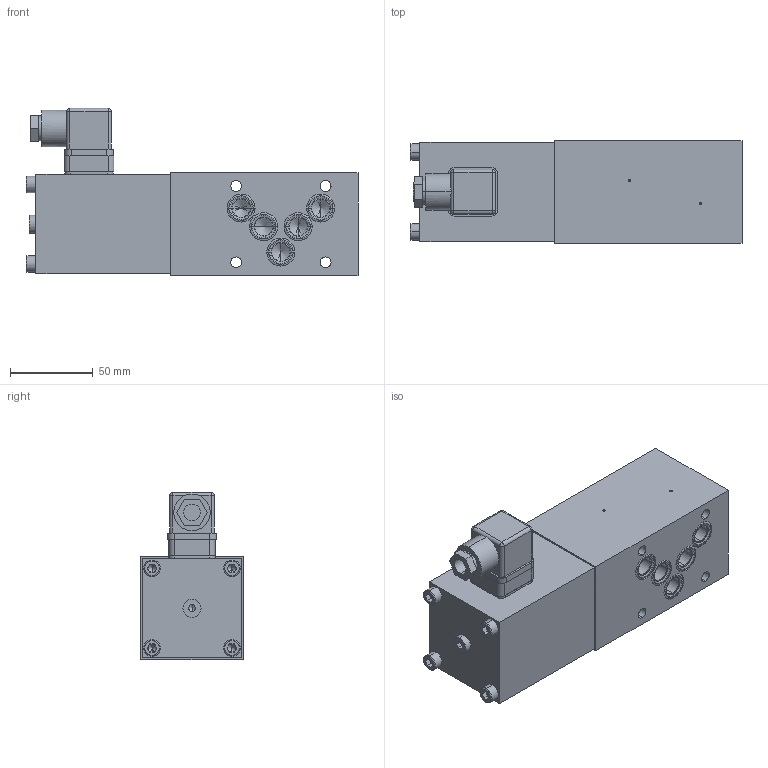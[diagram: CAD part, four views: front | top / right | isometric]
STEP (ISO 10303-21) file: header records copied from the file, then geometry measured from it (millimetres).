
FILE_DESCRIPTION (( 'STEP AP214' ), '1' );
FILE_NAME ('Z.22101A.STEP', '2017-03-08T08:59:08', ( '' ), ( '' ), 'SwSTEP 2.0', 'SolidWorks 2016', '' );
FILE_SCHEMA (( 'AUTOMOTIVE_DESIGN' ));
Length unit declared in the file: millimetre
Products named in the file (1): Z.22101A
Bounding box: 200.2 x 62 x 100.8 mm (x, y, z)
Volume: 728949 mm3; surface area: 97132.5 mm2
Topology: 12 solids, 23 shells, 638 faces, 1614 edges, 1014 vertices
Faces by surface type: plane 305, cylinder 209, cone 62, bspline 46, torus 16
Entity records: 26781 total; most frequent: CARTESIAN_POINT 4315, DIRECTION 3263, ORIENTED_EDGE 3128, EDGE_CURVE 1564, AXIS2_PLACEMENT_3D 1179, VERTEX_POINT 1014, VECTOR 905, LINE 905
